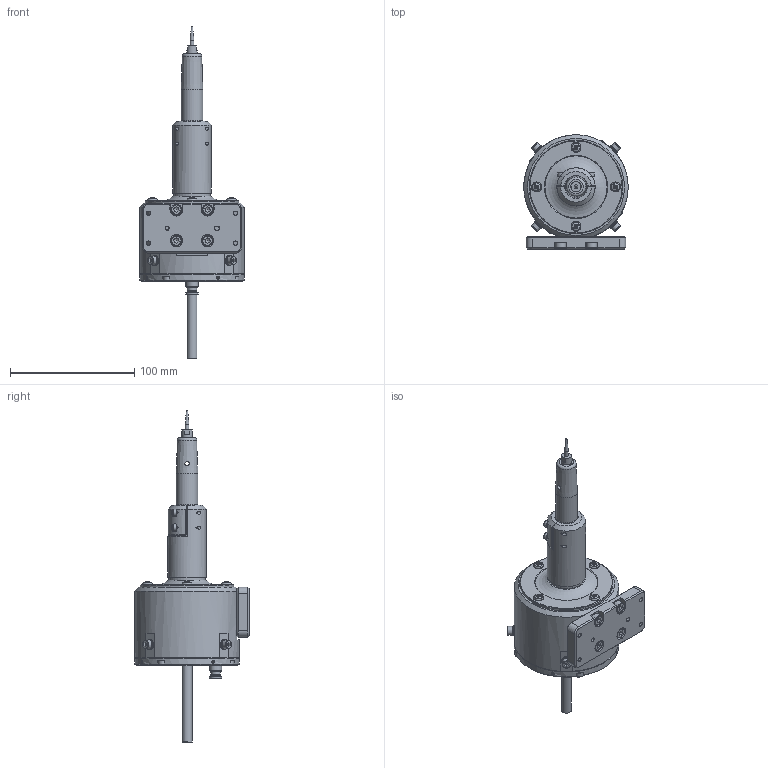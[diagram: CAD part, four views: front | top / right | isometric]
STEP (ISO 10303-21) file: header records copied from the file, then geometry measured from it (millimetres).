
FILE_DESCRIPTION(/* description */ (''),/* implementation_level */ '2;1');
FILE_NAME(/* name */ 'G:\我的雲端硬碟\5.工具設計\RC201\0. 簡化CAD圖\融合\RC201-000-000-D_總組合_Shrinkwrap_1.stp',/* time_stamp */ '2021-05-31T12:41:53+08:00',/* author */ ('Booster'),/* organization */ (''),/* preprocessor_version */ 'ST-DEVELOPER v18.1',/* originating_system */ 'Autodesk Inventor 2021',/* authorisation */ '');
FILE_SCHEMA (('CONFIG_CONTROL_DESIGN'));
Length unit declared in the file: inch
Products named in the file (1): RC201-000-000-D_總組合_Shrinkwrap_1
Bounding box: 84 x 92 x 267 mm (x, y, z)
Volume: 240348.8 mm3; surface area: 105709.3 mm2
Topology: 46 solids, 46 shells, 1016 faces, 2394 edges, 1501 vertices
Faces by surface type: plane 549, cone 226, cylinder 196, torus 41, sphere 4
Full cylindrical faces by diameter (mm): 2.459 x12, 3 x14, 3.2 x4, 3.242 x16, 3.5 x1, 3.57 x4, 4 x17, 4.134 x4, 4.3 x4, 4.5 x13, 5 x5, 5.4 x1, 5.5 x8, 6 x1, 6.3 x2, 7 x8, 7.5 x2, 7.8 x2, 8 x11, 8.35 x1, 8.5 x4, 9.7 x1, 9.9 x1, 10 x2, 11 x1, 16 x1, 17 x2, 17.55 x2, 17.75 x1, 20 x1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
Entity records: 31961 total; most frequent: CARTESIAN_POINT 7466, DIRECTION 4991, ORIENTED_EDGE 4684, EDGE_CURVE 2342, AXIS2_PLACEMENT_3D 1957, VERTEX_POINT 1499, EDGE_LOOP 1217, LINE 1077
